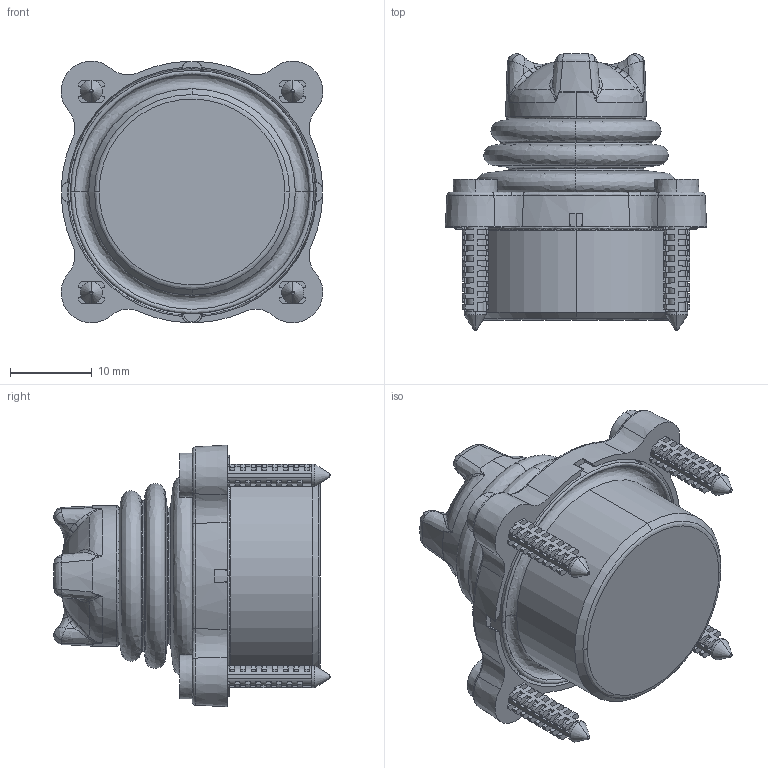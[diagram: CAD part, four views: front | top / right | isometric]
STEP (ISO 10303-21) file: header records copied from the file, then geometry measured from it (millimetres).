
FILE_DESCRIPTION (( 'STEP AP214' ), '1' );
FILE_NAME ('TRY14-DropIn-CastleCap.STEP', '2012-09-24T13:37:11', ( 'P700' ), ( 'Esprimo' ), 'SwSTEP 2.0', 'SolidWorks 2012', '' );
FILE_SCHEMA (( 'AUTOMOTIVE_DESIGN' ));
Length unit declared in the file: inch
Products named in the file (1): TRY14-DropIn-CastleCap
Bounding box: 32.09 x 33.93 x 32.1 mm (x, y, z)
Volume: 14550.5 mm3; surface area: 7005.4 mm2
Topology: 1 solids, 1 shells, 1183 faces, 3340 edges, 2128 vertices
Faces by surface type: plane 748, bspline 202, cylinder 165, cone 68
Entity records: 50134 total; most frequent: CARTESIAN_POINT 19047, ORIENTED_EDGE 6592, DIRECTION 4754, EDGE_CURVE 3296, VERTEX_POINT 2128, LINE 2046, VECTOR 2046, AXIS2_PLACEMENT_3D 1354
